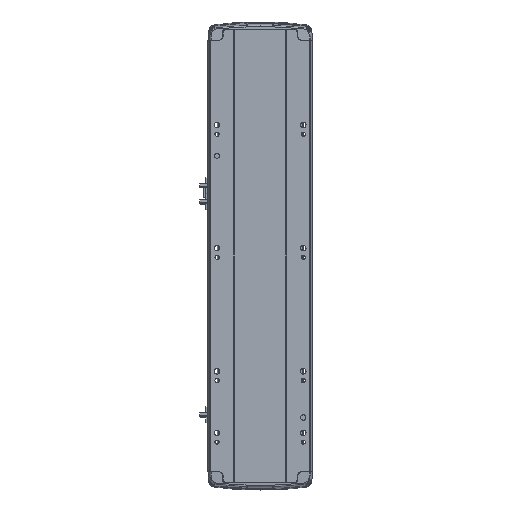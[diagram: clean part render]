
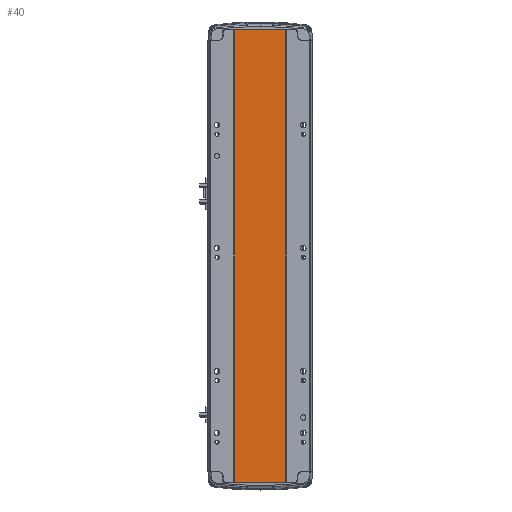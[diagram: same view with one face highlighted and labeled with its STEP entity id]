
A CAD part, front view. The second image highlights one B-rep face of the part: STEP entity #40.
In plain terms, the highlighted planar face has unit normal (0, -1, 0).
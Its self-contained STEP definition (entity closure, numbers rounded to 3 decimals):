
#40 = ADVANCED_FACE ( 'NONE', ( #27452 ), #35312, .F. ) ;
#3025 = VECTOR ( 'NONE', #29554, 1000. ) ;
#3729 = LINE ( 'NONE', #28845, #14407 ) ;
#4117 = EDGE_CURVE ( 'NONE', #38407, #35556, #36501, .T. ) ;
#4418 = CARTESIAN_POINT ( 'NONE',  ( 0., 0.999, 734.5 ) ) ;
#4971 = DIRECTION ( 'NONE',  ( 0., 1., 0. ) ) ;
#5650 = LINE ( 'NONE', #14301, #33092 ) ;
#7458 = AXIS2_PLACEMENT_3D ( 'NONE', #4418, #4971, #7549 ) ;
#7549 = DIRECTION ( 'NONE',  ( -1., 0., 0. ) ) ;
#8500 = CARTESIAN_POINT ( 'NONE',  ( 41.793, 0.998, 0. ) ) ;
#8554 = ORIENTED_EDGE ( 'NONE', *, *, #36301, .T. ) ;
#9496 = VECTOR ( 'NONE', #18696, 1000. ) ;
#9685 = CARTESIAN_POINT ( 'NONE',  ( 0., 0.999, 734.5 ) ) ;
#12351 = DIRECTION ( 'NONE',  ( 1., 0., 0. ) ) ;
#12797 = CARTESIAN_POINT ( 'NONE',  ( -41.791, 1., 734.5 ) ) ;
#14301 = CARTESIAN_POINT ( 'NONE',  ( 41.793, 0.998, 734.5 ) ) ;
#14407 = VECTOR ( 'NONE', #12351, 1000. ) ;
#14429 = VERTEX_POINT ( 'NONE', #39695 ) ;
#16170 = ORIENTED_EDGE ( 'NONE', *, *, #4117, .F. ) ;
#17277 = EDGE_CURVE ( 'NONE', #35556, #39778, #5650, .T. ) ;
#17453 = EDGE_CURVE ( 'NONE', #14429, #39778, #3729, .T. ) ;
#18696 = DIRECTION ( 'NONE',  ( 1., 0., 0. ) ) ;
#19410 = LINE ( 'NONE', #35639, #3025 ) ;
#23570 = DIRECTION ( 'NONE',  ( 0., 0., -1. ) ) ;
#26669 = CARTESIAN_POINT ( 'NONE',  ( 41.793, 0.998, 734.5 ) ) ;
#27452 = FACE_OUTER_BOUND ( 'NONE', #29958, .T. ) ;
#28845 = CARTESIAN_POINT ( 'NONE',  ( 0., 0.999, 0. ) ) ;
#29554 = DIRECTION ( 'NONE',  ( 0., 0., -1. ) ) ;
#29958 = EDGE_LOOP ( 'NONE', ( #37956, #33638, #16170, #8554 ) ) ;
#33092 = VECTOR ( 'NONE', #23570, 1000. ) ;
#33638 = ORIENTED_EDGE ( 'NONE', *, *, #17277, .F. ) ;
#35312 = PLANE ( 'NONE',  #7458 ) ;
#35556 = VERTEX_POINT ( 'NONE', #26669 ) ;
#35639 = CARTESIAN_POINT ( 'NONE',  ( -41.791, 1., 734.5 ) ) ;
#36301 = EDGE_CURVE ( 'NONE', #38407, #14429, #19410, .T. ) ;
#36501 = LINE ( 'NONE', #9685, #9496 ) ;
#37956 = ORIENTED_EDGE ( 'NONE', *, *, #17453, .T. ) ;
#38407 = VERTEX_POINT ( 'NONE', #12797 ) ;
#39695 = CARTESIAN_POINT ( 'NONE',  ( -41.791, 1., 0. ) ) ;
#39778 = VERTEX_POINT ( 'NONE', #8500 ) ;
